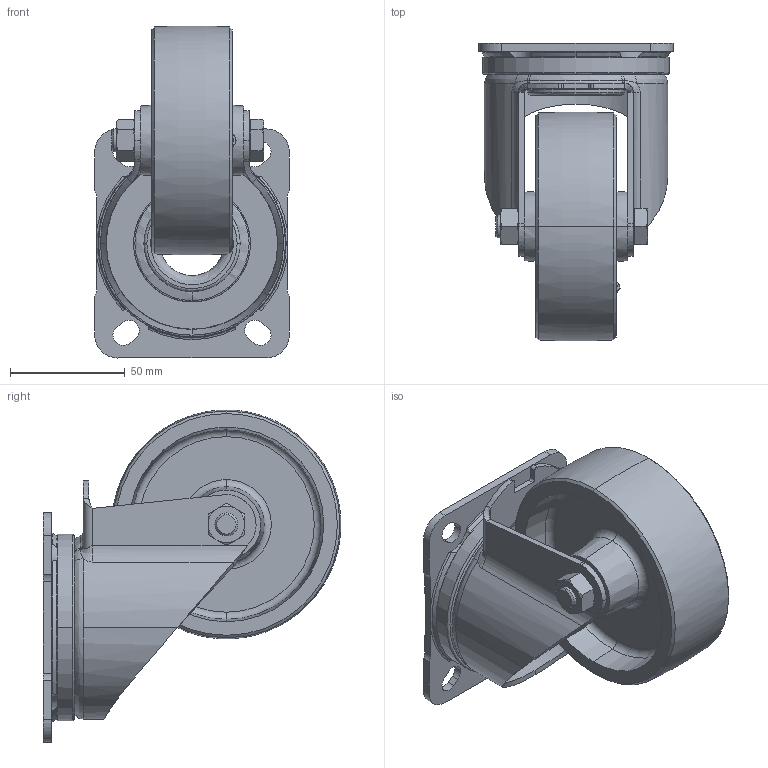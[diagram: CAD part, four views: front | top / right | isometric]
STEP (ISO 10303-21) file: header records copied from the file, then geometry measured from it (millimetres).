
FILE_DESCRIPTION (( 'STEP AP214' ), '1' );
FILE_NAME ('LK-G_100G-1_267690-214.step', '2013-02-23T12:22:51', ( '' ), ( '' ), 'SwSTEP 2.0', 'SolidWorks 2012', '' );
FILE_SCHEMA (( 'AUTOMOTIVE_DESIGN' ));
Length unit declared in the file: millimetre
Products named in the file (5): AM_LK_10x50x2,5_G; G_G15_G_100_15G_007575; G-G_G15_G_100_15G_007575; GH-LK_100-1_G15; LK-G_100G-1_267690-214
Assembly tree (4 placements, depth 3):
  LK-G_100G-1_267690-214
    GH-LK_100-1_G15
    G_G15_G_100_15G_007575
      G-G_G15_G_100_15G_007575
    AM_LK_10x50x2,5_G
Bounding box: 85 x 129.92 x 144.95 mm (x, y, z)
Volume: 250598.3 mm3; surface area: 87737.1 mm2
Topology: 3 solids, 3 shells, 911 faces, 2358 edges, 1512 vertices
Faces by surface type: plane 387, bspline 355, cylinder 85, cone 65, torus 19
Entity records: 50709 total; most frequent: CARTESIAN_POINT 23571, ORIENTED_EDGE 4712, DIRECTION 3109, EDGE_CURVE 2356, VERTEX_POINT 1512, LINE 1249, VECTOR 1249, EDGE_LOOP 984
